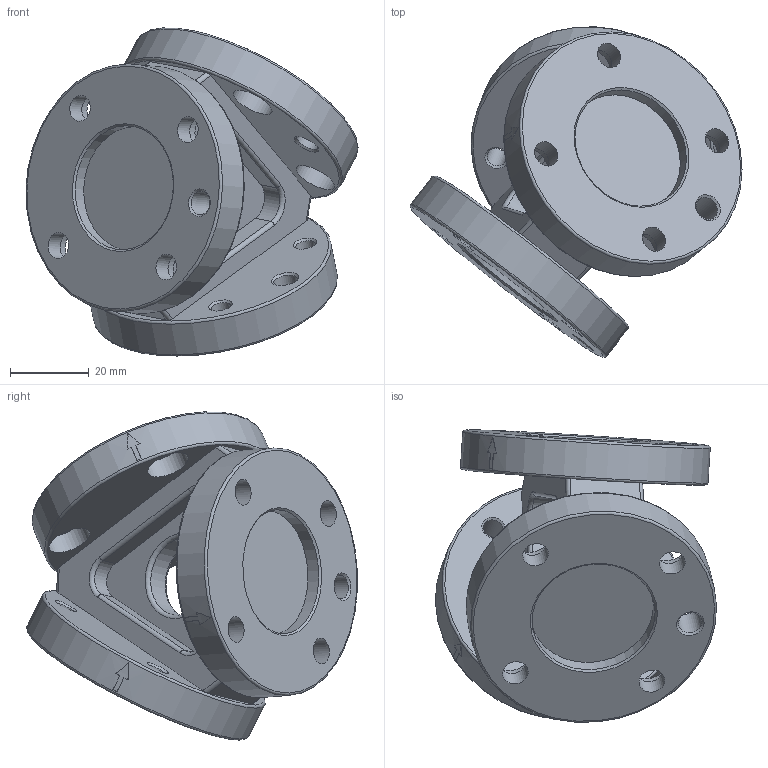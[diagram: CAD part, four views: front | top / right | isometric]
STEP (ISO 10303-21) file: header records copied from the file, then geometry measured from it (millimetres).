
FILE_DESCRIPTION(/* description */ (''),/* implementation_level */ '2;1');
FILE_NAME(/* name */ 'T:\CAD\Standard\Daten\3D-Datenbank\G-YA\G-YA063-S2.stp',/* time_stamp */ '2020-05-29T17:26:00+02:00',/* author */ ('hcanti'),/* organization */ (''),/* preprocessor_version */ 'ST-DEVELOPER v17',/* originating_system */ 'Autodesk Inventor 2018',/* authorisation */ '');
FILE_SCHEMA (('AUTOMOTIVE_DESIGN { 1 0 10303 214 3 1 1 }'));
Length unit declared in the file: millimetre
Products named in the file (5): Baugruppe18; XG-YA063-S2; G-YA063-S0-01 Y-Adapter 3-Eck; G-YA063-S0-02 Y-Adapter Flansch (Gewinde); G-YA063-S0-03 Y-Adapter Flansch (Senkungen)
Assembly tree (5 placements, depth 3):
  Baugruppe18
    XG-YA063-S2
      G-YA063-S0-01 Y-Adapter 3-Eck
      G-YA063-S0-02 Y-Adapter Flansch (Gewinde)
      G-YA063-S0-03 Y-Adapter Flansch (Senkungen)  x2
Bounding box: 84.32 x 83.93 x 83.33 mm (x, y, z)
Volume: 103390.9 mm3; surface area: 37031.6 mm2
Topology: 4 solids, 4 shells, 136 faces, 330 edges, 218 vertices
Faces by surface type: plane 54, cylinder 51, cone 17, torus 14
Full cylindrical faces by diameter (mm): 5 x4, 6.02 x3, 6.6 x8, 11 x8, 20 x1, 31.52 x3, 63 x3
Entity records: 3414 total; most frequent: DIRECTION 633, CARTESIAN_POINT 537, ORIENTED_EDGE 510, AXIS2_PLACEMENT_3D 262, EDGE_CURVE 255, VERTEX_POINT 166, EDGE_LOOP 137, CIRCLE 126
